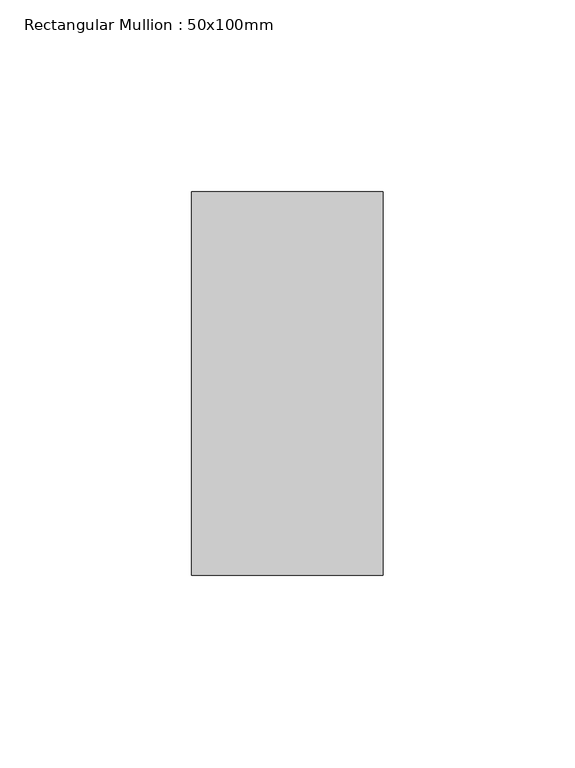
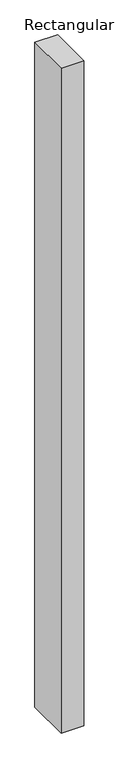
"""IFC4 building model written with IfcOpenShell, lengths in millimetres: member geometry, Rectangular Mullion : 50x100mm."""

from ifc_helpers import new_model, si_unit, frame, origin, place, context, project, spatial, polyline, outline, extrude, source, transform, mapped, element, save


def rectangular_mullion_50x100mm_0889242f(model_context):
    return source(origin(), model_context, "Body", "SweptSolid", [
        extrude(outline(polyline([(25.0, 50.0), (25.0, -50.0), (-25.0, -50.0), (-25.0, 50.0), (25.0, 50.0)])), frame((0.0, 0.0, -1554.2622212), z_axis=(0.0, 0.0, 1.0), x_axis=(1.0, 0.0, 0.0)), (0.0, 0.0, 1.0), 1554.2622212),
    ])


if __name__ == "__main__":
    model = new_model("IFC4")
    model_context = context("Model", 3, world=origin())
    ifc_project = project(units=[si_unit("LENGTHUNIT", "METRE", prefix="MILLI")], contexts=[model_context])
    site = spatial("IfcSite", under=ifc_project)
    building = spatial("IfcBuilding", under=site)
    placement = place(None, origin())
    rectangular_mullion_50x100mm_shape = rectangular_mullion_50x100mm_0889242f(model_context)
    element("IfcMember", 1, ObjectType="Rectangular Mullion : 50x100mm", at=placement, inside=building, context=model_context, shape_type="MappedRepresentation", body=[
        mapped(rectangular_mullion_50x100mm_shape, transform((0.0, 0.0, 0.0), x_axis=(1.0, 0.0, 0.0), y_axis=(0.0, 1.0, 0.0), z_axis=(0.0, 0.0, 1.0))),
    ])
    save(model, "model.ifc")
